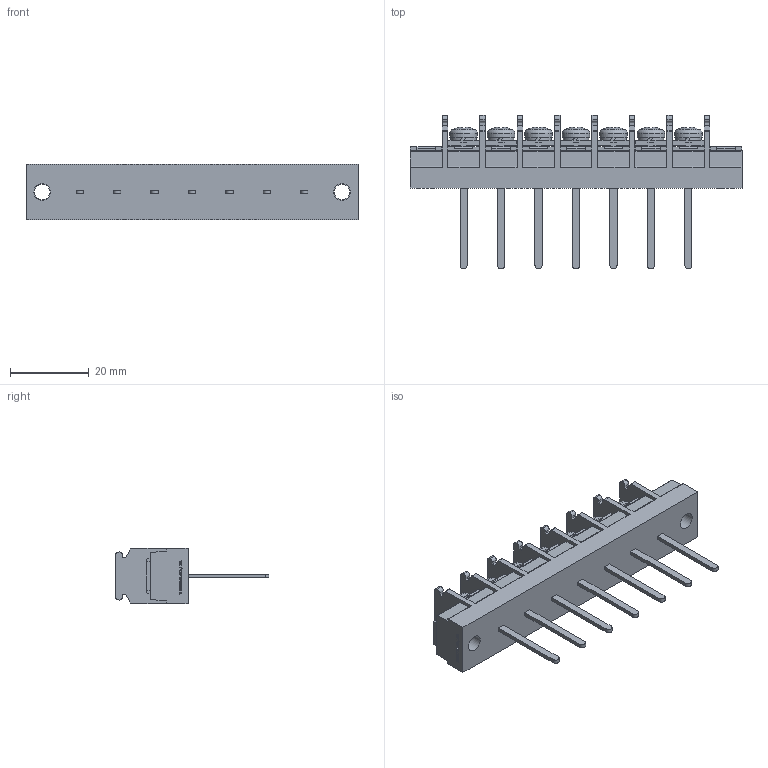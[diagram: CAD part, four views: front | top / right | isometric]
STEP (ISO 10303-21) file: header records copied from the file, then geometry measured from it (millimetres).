
FILE_DESCRIPTION(/* description */ ('Alibre Inc.'),/* implementation_level */ '2;1');
FILE_NAME(/* name */ 'export-B1BA98D8-0F35-46C5-AC0A-B36E9756D136',/* time_stamp */ '2021-02-13T17:33:21+09:00',/* author */ (''),/* organization */ (''),/* preprocessor_version */ 'ST-DEVELOPER v17',/* originating_system */ 'Alibre',/* authorisation */ '');
FILE_SCHEMA (('CONFIG_CONTROL_DESIGN'));
Length unit declared in the file: millimetre
Bounding box: 84.2 x 39 x 14 mm (x, y, z)
Volume: 13702.7 mm3; surface area: 9694.7 mm2
Topology: 1 solids, 24 shells, 1266 faces, 3535 edges, 2327 vertices
Faces by surface type: plane 942, cylinder 164, bspline 104, cone 35, torus 14, sphere 7
Full cylindrical faces by diameter (mm): 4 x16, 4.2 x2, 7 x7
Entity records: 38670 total; most frequent: CARTESIAN_POINT 8040, ORIENTED_EDGE 6946, DIRECTION 4973, EDGE_CURVE 3473, VECTOR 2535, LINE 2535, VERTEX_POINT 2311, AXIS2_PLACEMENT_3D 1666
